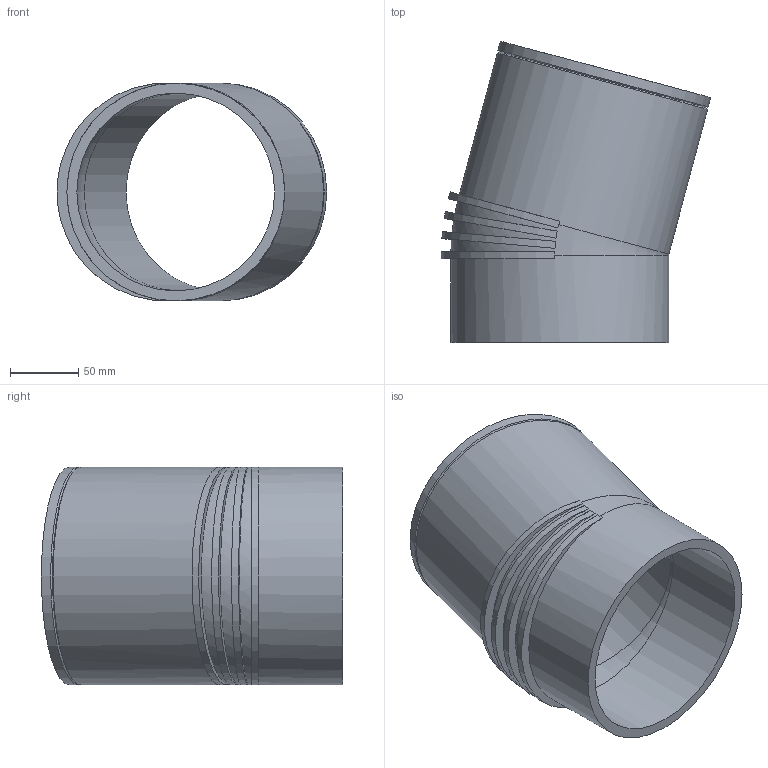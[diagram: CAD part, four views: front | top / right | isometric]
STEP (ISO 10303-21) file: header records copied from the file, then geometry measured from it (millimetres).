
FILE_DESCRIPTION(/* description */ (''),/* implementation_level */ '2;1');
FILE_NAME(/* name */ 'Z:\Geberit\Export\NewStep\Bogen_Ipart\stp\315150.stp',/* time_stamp */ '2014-04-03T16:42:02+02:00',/* author */ ('Marco'),/* organization */ (''),/* preprocessor_version */ 'ST-DEVELOPER v15.2',/* originating_system */ 'Autodesk Inventor 2014',/* authorisation */ '');
FILE_SCHEMA (('AUTOMOTIVE_DESIGN { 1 0 10303 214 3 1 1 }'));
Length unit declared in the file: millimetre
Products named in the file (1): 315150
Bounding box: 197.98 x 221.28 x 160 mm (x, y, z)
Volume: 745619.6 mm3; surface area: 214184.9 mm2
Topology: 1 solids, 1 shells, 23 faces, 60 edges, 39 vertices
Faces by surface type: plane 10, cylinder 9, cone 2, torus 2
Full cylindrical faces by diameter (mm): 145.3 x2, 160 x3
Entity records: 1056 total; most frequent: CARTESIAN_POINT 532, DIRECTION 94, ORIENTED_EDGE 90, EDGE_CURVE 45, AXIS2_PLACEMENT_3D 45, EDGE_LOOP 36, VERTEX_POINT 35, STYLED_ITEM 24
